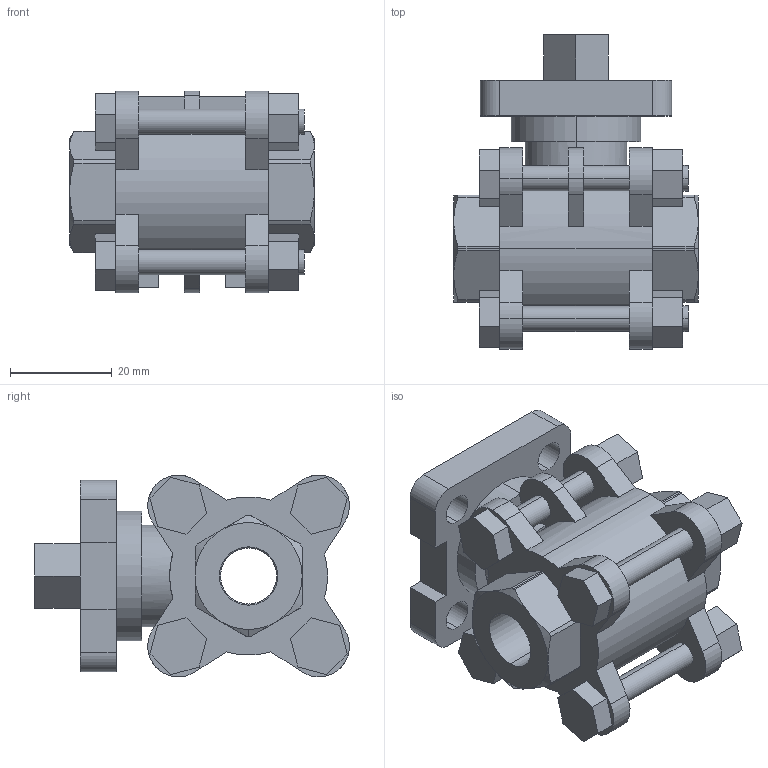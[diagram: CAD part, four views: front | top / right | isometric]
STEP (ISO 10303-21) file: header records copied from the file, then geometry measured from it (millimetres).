
FILE_DESCRIPTION (( 'STEP AP203' ), '1' );
FILE_NAME ('C3.622I0070FVPB0.STEP', '2018-10-12T06:43:21', ( '' ), ( '' ), 'SwSTEP 2.0', 'SolidWorks 2014', '' );
FILE_SCHEMA (( 'CONFIG_CONTROL_DESIGN' ));
Length unit declared in the file: millimetre
Products named in the file (1): C3.622I0070FVPB0
Bounding box: 48 x 61.78 x 39.58 mm (x, y, z)
Volume: 48420.9 mm3; surface area: 17109.5 mm2
Topology: 1 solids, 1 shells, 223 faces, 588 edges, 385 vertices
Faces by surface type: plane 132, cylinder 73, cone 18
Entity records: 7178 total; most frequent: CARTESIAN_POINT 1421, DIRECTION 1189, ORIENTED_EDGE 1176, EDGE_CURVE 588, AXIS2_PLACEMENT_3D 407, VERTEX_POINT 385, VECTOR 375, LINE 375
